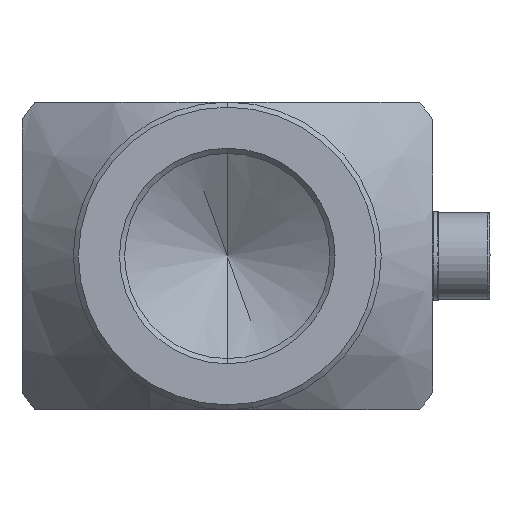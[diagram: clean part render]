
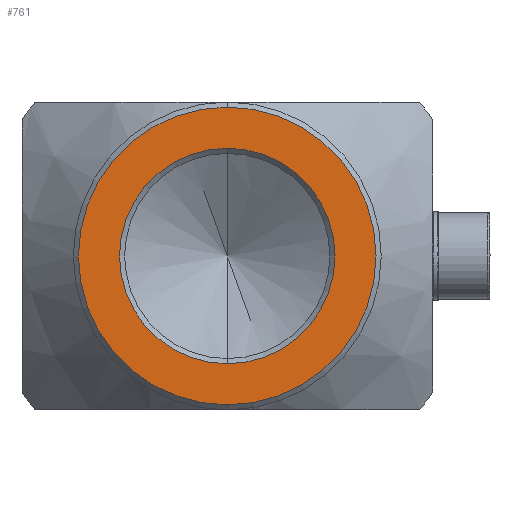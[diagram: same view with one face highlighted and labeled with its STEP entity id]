
A CAD part, front view. The second image highlights one B-rep face of the part: STEP entity #761.
In plain terms, the highlighted planar face has unit normal (0, -1, 0).
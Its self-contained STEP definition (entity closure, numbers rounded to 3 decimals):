
#49 = EDGE_CURVE ( 'NONE', #6932, #135, #2193, .T. ) ;
#135 = VERTEX_POINT ( 'NONE', #10057 ) ;
#249 = CIRCLE ( 'NONE', #7254, 14.5 ) ;
#332 = EDGE_LOOP ( 'NONE', ( #7534, #11113 ) ) ;
#347 = VERTEX_POINT ( 'NONE', #9448 ) ;
#388 = CARTESIAN_POINT ( 'NONE',  ( -27.206, -102.016, 244. ) ) ;
#447 = EDGE_CURVE ( 'NONE', #135, #6932, #9305, .T. ) ;
#761 = ADVANCED_FACE ( 'NONE', ( #3888, #6733 ), #10499, .F. ) ;
#1129 = AXIS2_PLACEMENT_3D ( 'NONE', #2989, #3952, #10663 ) ;
#1222 = DIRECTION ( 'NONE',  ( 0., 0., 1. ) ) ;
#1720 = VERTEX_POINT ( 'NONE', #9808 ) ;
#2193 = CIRCLE ( 'NONE', #4269, 10.5 ) ;
#2829 = DIRECTION ( 'NONE',  ( 0., 0., 1. ) ) ;
#2989 = CARTESIAN_POINT ( 'NONE',  ( -27.206, -102.016, 244. ) ) ;
#3275 = CARTESIAN_POINT ( 'NONE',  ( -27.206, -102.016, 244. ) ) ;
#3888 = FACE_BOUND ( 'NONE', #9487, .T. ) ;
#3952 = DIRECTION ( 'NONE',  ( 0., -1., 0. ) ) ;
#4219 = DIRECTION ( 'NONE',  ( 0., 0., 1. ) ) ;
#4269 = AXIS2_PLACEMENT_3D ( 'NONE', #6013, #7926, #9792 ) ;
#4321 = CIRCLE ( 'NONE', #9945, 14.5 ) ;
#4697 = DIRECTION ( 'NONE',  ( 0., 1., 0. ) ) ;
#4919 = AXIS2_PLACEMENT_3D ( 'NONE', #6913, #4697, #2829 ) ;
#6013 = CARTESIAN_POINT ( 'NONE',  ( -27.206, -102.016, 244. ) ) ;
#6733 = FACE_OUTER_BOUND ( 'NONE', #332, .T. ) ;
#6913 = CARTESIAN_POINT ( 'NONE',  ( -41.88, -102.016, 229.326 ) ) ;
#6922 = CARTESIAN_POINT ( 'NONE',  ( -27.206, -102.016, 254.5 ) ) ;
#6932 = VERTEX_POINT ( 'NONE', #6922 ) ;
#7097 = DIRECTION ( 'NONE',  ( 0., -1., 0. ) ) ;
#7254 = AXIS2_PLACEMENT_3D ( 'NONE', #388, #7097, #1222 ) ;
#7534 = ORIENTED_EDGE ( 'NONE', *, *, #11248, .T. ) ;
#7926 = DIRECTION ( 'NONE',  ( 0., -1., 0. ) ) ;
#8216 = ORIENTED_EDGE ( 'NONE', *, *, #447, .F. ) ;
#8320 = EDGE_CURVE ( 'NONE', #347, #1720, #4321, .T. ) ;
#9305 = CIRCLE ( 'NONE', #1129, 10.5 ) ;
#9448 = CARTESIAN_POINT ( 'NONE',  ( -27.206, -102.016, 229.5 ) ) ;
#9487 = EDGE_LOOP ( 'NONE', ( #8216, #11047 ) ) ;
#9792 = DIRECTION ( 'NONE',  ( 0., 0., -1. ) ) ;
#9808 = CARTESIAN_POINT ( 'NONE',  ( -27.206, -102.016, 258.5 ) ) ;
#9945 = AXIS2_PLACEMENT_3D ( 'NONE', #3275, #9977, #4219 ) ;
#9977 = DIRECTION ( 'NONE',  ( 0., -1., 0. ) ) ;
#10057 = CARTESIAN_POINT ( 'NONE',  ( -27.206, -102.016, 233.5 ) ) ;
#10499 = PLANE ( 'NONE',  #4919 ) ;
#10663 = DIRECTION ( 'NONE',  ( 0., 0., -1. ) ) ;
#11047 = ORIENTED_EDGE ( 'NONE', *, *, #49, .F. ) ;
#11113 = ORIENTED_EDGE ( 'NONE', *, *, #8320, .T. ) ;
#11248 = EDGE_CURVE ( 'NONE', #1720, #347, #249, .T. ) ;
